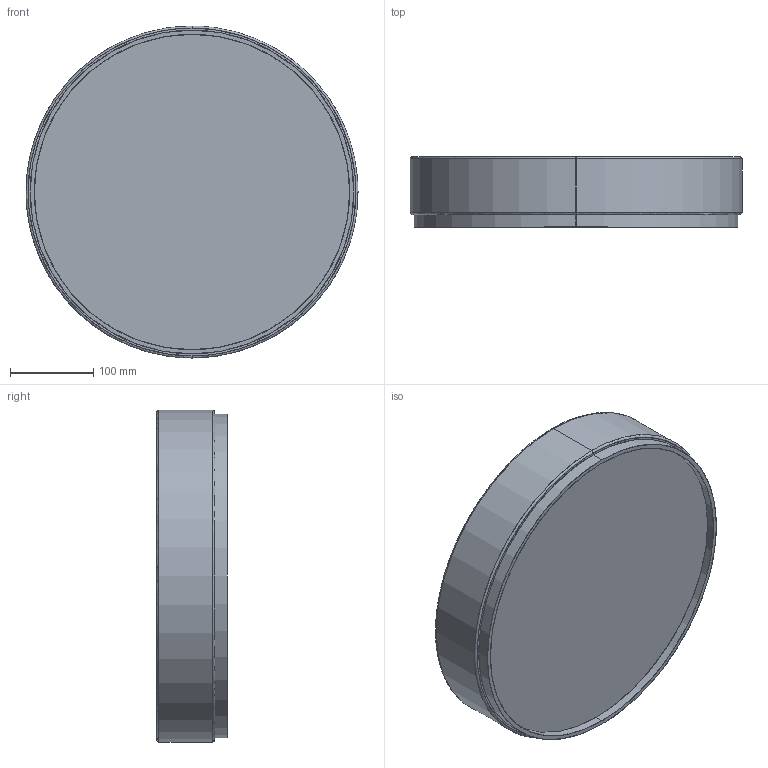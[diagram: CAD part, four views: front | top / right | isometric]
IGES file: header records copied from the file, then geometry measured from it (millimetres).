
Start section: SolidWorks IGES file using analytic representation for surfaces
Global section: file name: C:\Users\danielet\Desktop\3D CARLOS\ATEN-P3706-3D\ATEN-P3706-3D.IGS; native system: SolidWorks 2018; preprocessor: SolidWorks 2018; author: danielet; date: 220104.133712; units: millimetre
Bounding box: 400 x 85 x 400 mm (x, y, z)
Surface area: 366906.2 mm2 (no closed solid volume)
Topology: 0 solids, 0 shells, 14 faces, 424 edges, 424 vertices
Faces by surface type: bspline 8, revolution 6
